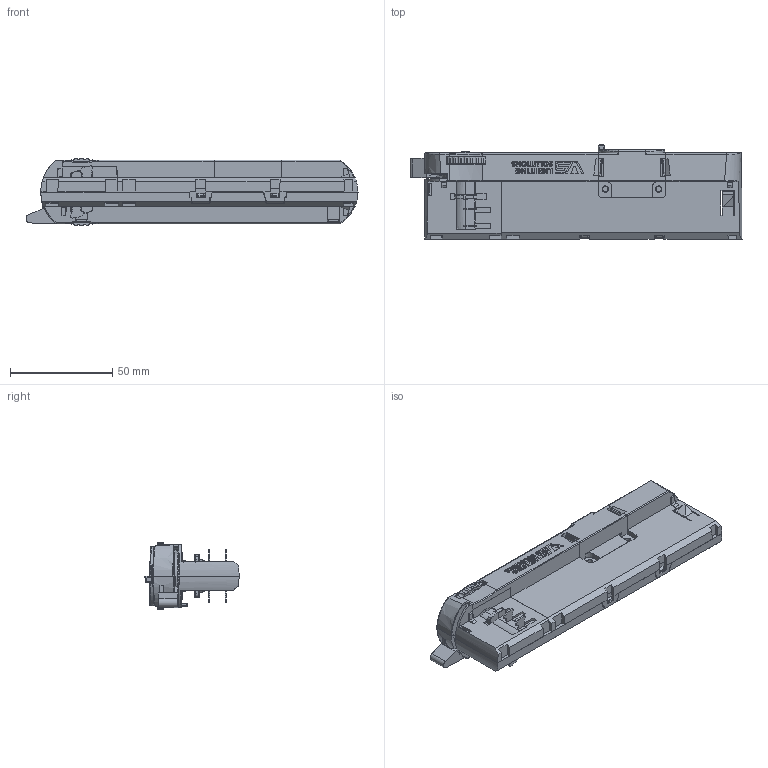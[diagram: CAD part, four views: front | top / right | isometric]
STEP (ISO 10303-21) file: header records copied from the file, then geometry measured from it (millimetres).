
FILE_DESCRIPTION(('Creo Elements/Direct Modeling STEP Export'),'2;1');
FILE_NAME('UT-155_GEN_4_TRACKADAPTER.stp','2024-08-09T14:16:47',(''),(''),'Creo Elements/Direct Modeling STEP processor for AP214 (Solid Model)','Creo Elements/Direct Modeling 20.6 25-Mar-2023 (C) Parametric Technology GmbH','');
FILE_SCHEMA(('AUTOMOTIVE_DESIGN { 1 0 10303 214 1 1 1 1 }'));
Length unit declared in the file: millimetre
Products named in the file (7): EGE-155-240808_1_9_1.PRT; EGE-155-240808_1_10_1.PRT; EGE-155-240808_1_1_1.PRT; EGE-155-240808_1_2_1.PRT; EGE-155-240808_1_3_1.PRT; EGE-155-240808_1_8_1.PRT; UT-155_GEN_4_TRACKADAPTER
Assembly tree (6 placements, depth 2):
  UT-155_GEN_4_TRACKADAPTER
    EGE-155-240808_1_8_1.PRT
    EGE-155-240808_1_3_1.PRT
    EGE-155-240808_1_2_1.PRT
    EGE-155-240808_1_1_1.PRT
    EGE-155-240808_1_10_1.PRT
    EGE-155-240808_1_9_1.PRT
Bounding box: 162.33 x 45.99 x 33.1 mm (x, y, z)
Volume: 52126.7 mm3; surface area: 60890.1 mm2
Topology: 6 solids, 6 shells, 3345 faces, 9497 edges, 6268 vertices
Faces by surface type: plane 1913, extrusion 742, cylinder 559, bspline 58, torus 46, cone 16, sphere 11
Entity records: 120359 total; most frequent: CARTESIAN_POINT 32590, ORIENTED_EDGE 18948, DIRECTION 14090, EDGE_CURVE 9474, VECTOR 7060, LINE 6318, VERTEX_POINT 6268, AXIS2_PLACEMENT_3D 3515
